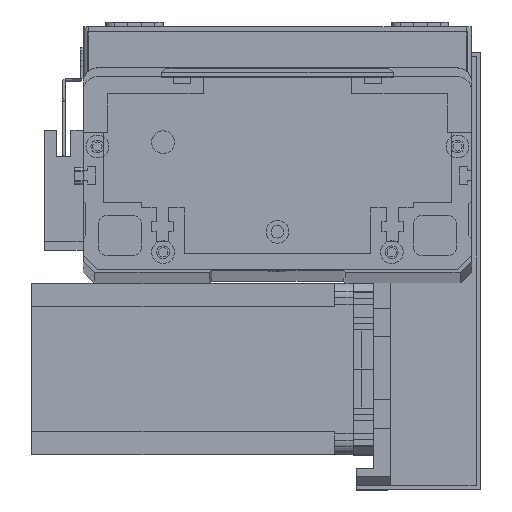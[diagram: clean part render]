
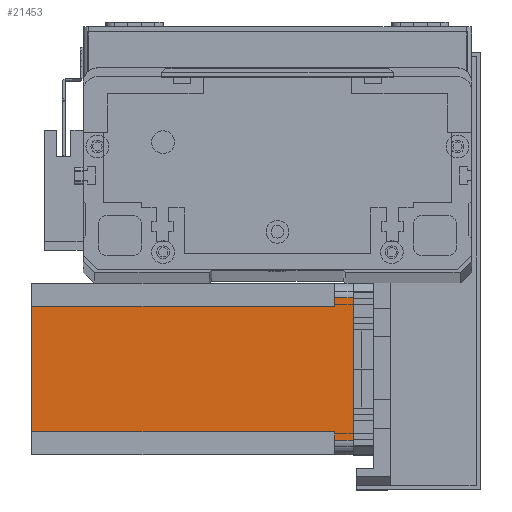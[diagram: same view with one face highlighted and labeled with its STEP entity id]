
A CAD part, top view. The second image highlights one B-rep face of the part: STEP entity #21453.
In plain terms, the highlighted planar face has unit normal (0, 0, 1) as drawn and (0, -1, 0) by its records, which use the part's own axes.
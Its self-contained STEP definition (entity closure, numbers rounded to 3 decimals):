
#277 = DIRECTION ( 'NONE',  ( 1., 0., 0. ) ) ;
#306 = EDGE_CURVE ( 'NONE', #1596, #15176, #4547, .T. ) ;
#590 = EDGE_CURVE ( 'NONE', #1596, #6942, #10531, .T. ) ;
#1547 = PLANE ( 'NONE',  #19094 ) ;
#1596 = VERTEX_POINT ( 'NONE', #7597 ) ;
#1798 = ORIENTED_EDGE ( 'NONE', *, *, #5326, .T. ) ;
#3070 = CARTESIAN_POINT ( 'NONE',  ( 8., 0., -112.5 ) ) ;
#4547 = LINE ( 'NONE', #14827, #28558 ) ;
#5218 = LINE ( 'NONE', #21324, #5979 ) ;
#5326 = EDGE_CURVE ( 'NONE', #29138, #5342, #19807, .T. ) ;
#5342 = VERTEX_POINT ( 'NONE', #16458 ) ;
#5871 = VECTOR ( 'NONE', #13420, 1000. ) ;
#5979 = VECTOR ( 'NONE', #23526, 1000. ) ;
#6310 = DIRECTION ( 'NONE',  ( 0., 0., -1. ) ) ;
#6521 = CARTESIAN_POINT ( 'NONE',  ( 8., 0., -112.5 ) ) ;
#6942 = VERTEX_POINT ( 'NONE', #24189 ) ;
#7360 = VECTOR ( 'NONE', #23389, 1000. ) ;
#7475 = FACE_OUTER_BOUND ( 'NONE', #26936, .T. ) ;
#7597 = CARTESIAN_POINT ( 'NONE',  ( 52., 0., -6.5 ) ) ;
#9796 = VECTOR ( 'NONE', #24907, 1000. ) ;
#9823 = ORIENTED_EDGE ( 'NONE', *, *, #25426, .F. ) ;
#10099 = CARTESIAN_POINT ( 'NONE',  ( 5., 0., 0. ) ) ;
#10105 = ORIENTED_EDGE ( 'NONE', *, *, #22246, .F. ) ;
#10531 = LINE ( 'NONE', #27382, #9796 ) ;
#11018 = CARTESIAN_POINT ( 'NONE',  ( 55., 0., 0. ) ) ;
#11153 = CARTESIAN_POINT ( 'NONE',  ( 55., 0., -112.5 ) ) ;
#11503 = LINE ( 'NONE', #26196, #19831 ) ;
#12387 = DIRECTION ( 'NONE',  ( 1., 0., 0. ) ) ;
#13065 = CARTESIAN_POINT ( 'NONE',  ( 8., 0., -6.5 ) ) ;
#13420 = DIRECTION ( 'NONE',  ( 0., 0., 1. ) ) ;
#13650 = DIRECTION ( 'NONE',  ( 1., 0., 0. ) ) ;
#13679 = LINE ( 'NONE', #6521, #19058 ) ;
#14827 = CARTESIAN_POINT ( 'NONE',  ( 52., 0., -6.5 ) ) ;
#15176 = VERTEX_POINT ( 'NONE', #24366 ) ;
#15325 = VERTEX_POINT ( 'NONE', #11018 ) ;
#15939 = DIRECTION ( 'NONE',  ( 0., 0., 1. ) ) ;
#16458 = CARTESIAN_POINT ( 'NONE',  ( 5., 0., -6.5 ) ) ;
#17322 = EDGE_CURVE ( 'NONE', #15176, #15325, #18353, .T. ) ;
#18012 = CARTESIAN_POINT ( 'NONE',  ( 0., 0., -112.5 ) ) ;
#18353 = LINE ( 'NONE', #11153, #5871 ) ;
#18876 = ORIENTED_EDGE ( 'NONE', *, *, #30015, .F. ) ;
#19058 = VECTOR ( 'NONE', #15939, 1000. ) ;
#19094 = AXIS2_PLACEMENT_3D ( 'NONE', #18012, #20361, #6310 ) ;
#19632 = ORIENTED_EDGE ( 'NONE', *, *, #306, .T. ) ;
#19807 = LINE ( 'NONE', #21097, #7360 ) ;
#19831 = VECTOR ( 'NONE', #12387, 1000. ) ;
#20241 = VERTEX_POINT ( 'NONE', #13065 ) ;
#20361 = DIRECTION ( 'NONE',  ( 0., -1., 0. ) ) ;
#20508 = CARTESIAN_POINT ( 'NONE',  ( 0., 0., 0. ) ) ;
#21097 = CARTESIAN_POINT ( 'NONE',  ( 5., 0., -112.5 ) ) ;
#21324 = CARTESIAN_POINT ( 'NONE',  ( 8., 0., -6.5 ) ) ;
#21453 = ADVANCED_FACE ( 'NONE', ( #7475 ), #1547, .T. ) ;
#22246 = EDGE_CURVE ( 'NONE', #20241, #5342, #5218, .T. ) ;
#23389 = DIRECTION ( 'NONE',  ( 0., 0., -1. ) ) ;
#23526 = DIRECTION ( 'NONE',  ( -1., 0., 0. ) ) ;
#23914 = LINE ( 'NONE', #20508, #29260 ) ;
#24189 = CARTESIAN_POINT ( 'NONE',  ( 52., 0., -112.5 ) ) ;
#24366 = CARTESIAN_POINT ( 'NONE',  ( 55., 0., -6.5 ) ) ;
#24520 = ORIENTED_EDGE ( 'NONE', *, *, #590, .F. ) ;
#24907 = DIRECTION ( 'NONE',  ( 0., 0., -1. ) ) ;
#25080 = EDGE_CURVE ( 'NONE', #27960, #6942, #11503, .T. ) ;
#25426 = EDGE_CURVE ( 'NONE', #27960, #20241, #13679, .T. ) ;
#25961 = ORIENTED_EDGE ( 'NONE', *, *, #17322, .T. ) ;
#26196 = CARTESIAN_POINT ( 'NONE',  ( 0., 0., -112.5 ) ) ;
#26936 = EDGE_LOOP ( 'NONE', ( #19632, #25961, #18876, #1798, #10105, #9823, #28291, #24520 ) ) ;
#27382 = CARTESIAN_POINT ( 'NONE',  ( 52., 0., -112.5 ) ) ;
#27960 = VERTEX_POINT ( 'NONE', #3070 ) ;
#28291 = ORIENTED_EDGE ( 'NONE', *, *, #25080, .T. ) ;
#28558 = VECTOR ( 'NONE', #277, 1000. ) ;
#29138 = VERTEX_POINT ( 'NONE', #10099 ) ;
#29260 = VECTOR ( 'NONE', #13650, 1000. ) ;
#30015 = EDGE_CURVE ( 'NONE', #29138, #15325, #23914, .T. ) ;
